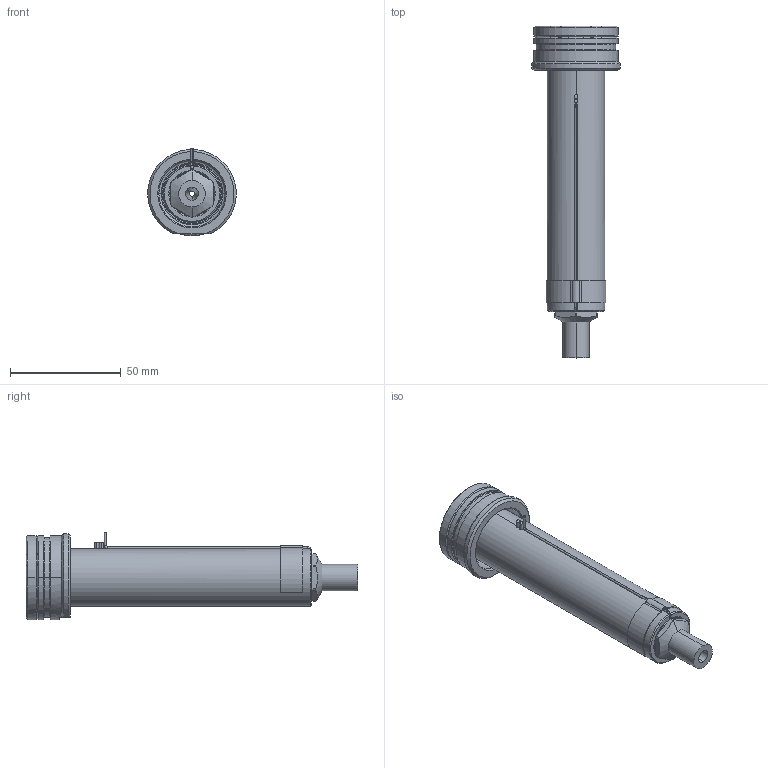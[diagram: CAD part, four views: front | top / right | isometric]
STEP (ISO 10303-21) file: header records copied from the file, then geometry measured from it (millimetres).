
FILE_DESCRIPTION((''),'2;1');
FILE_NAME('EO08_VG-ST_ESG_120_SW','2024-02-19T12:44:37',('sundharh'),(''),'CREO PARAMETRIC BY PTC INC, 2023154','CREO PARAMETRIC BY PTC INC, 2023154','');
FILE_SCHEMA(('CONFIG_CONTROL_DESIGN'));
Length unit declared in the file: millimetre
Products named in the file (1): EO08_VG-ST_ESG_120_SW
Bounding box: 39.88 x 150 x 39.52 mm (x, y, z)
Volume: 74705.3 mm3; surface area: 21380.5 mm2
Topology: 1 solids, 1 shells, 174 faces, 438 edges, 269 vertices
Faces by surface type: cylinder 64, plane 44, cone 37, torus 19, bspline 8, sphere 2
Entity records: 6515 total; most frequent: CARTESIAN_POINT 2251, DIRECTION 941, ORIENTED_EDGE 868, EDGE_CURVE 434, AXIS2_PLACEMENT_3D 390, VERTEX_POINT 269, CIRCLE 224, EDGE_LOOP 189
